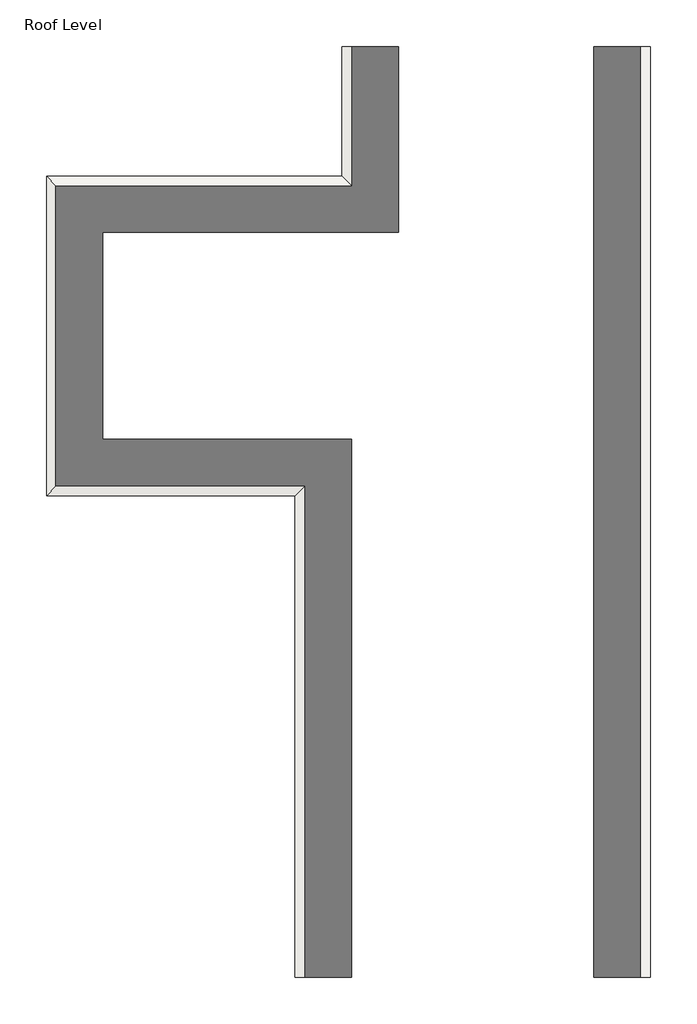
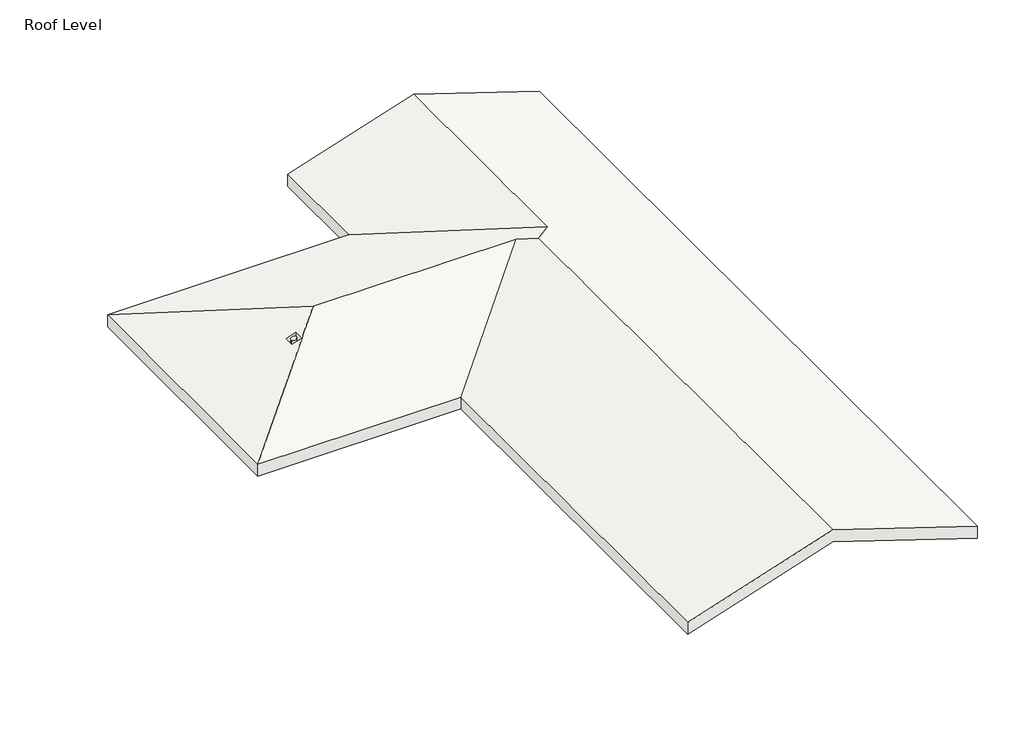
# One storey: 1 roof.
"""IFC4 building model written with IfcOpenShell, lengths in millimetres."""

from ifc_helpers import new_model, si_unit, frame, origin, place, context, project, spatial, ellipse_curve, faceted_brep, element, save
from ifc_brep_helpers import plane_surface, cylinder_surface, advanced_brep

model = new_model("IFC4")

# Units and contexts
model_context = context("Model", 3, world=origin())
ifc_project = project(units=[si_unit("LENGTHUNIT", "METRE", prefix="MILLI")], contexts=[model_context])

# Site, building, storey
site = spatial("IfcSite", under=ifc_project)
building = spatial("IfcBuilding", under=site)
storey = spatial("IfcBuildingStorey", under=building, Name="Roof Level", Elevation=14750.0)

# Roof
placement = place(None, origin())
element("IfcRoof", 1, ObjectType="Main roof", at=placement, inside=storey, context=model_context, shape_type="SolidModel", body=[
    faceted_brep([(-671.5846805, 11592.3927558, 15495.936781), (3156.9978058, 11592.3927558, 16739.9186395), (3156.9978058, 4543.4350317, 16739.9186395), (-671.5846805, 8372.0175181, 15495.936781), (2571.9978058, 3958.4350317, 16929.9966618), (2125.9044897, 4404.5283479, 16785.052157), (-4054.360747, 4404.5283479, 16785.052157), (-8021.8499172, 8372.0175181, 15495.936781), (-4541.2600407, 3917.6290541, 16626.8489864), (-4557.1962165, 3901.6928783, 16621.671009), (-4643.223579, 3815.6655158, 16593.7190245), (-4755.2326782, 3703.6564166, 16557.325062), (-4841.2600407, 3617.6290541, 16529.3730775), (-8021.8499172, 437.0391776, 15495.936781), (-4857.1962165, 3917.6290541, 16524.1951001), (-5157.1962165, 3917.6290541, 16426.7191913), (-5157.1962165, 3617.6290541, 16426.7191913), (-4857.1962165, 3617.6290541, 16524.1951001), (-1841.5846805, 437.0391776, 15495.936781), (2571.9978058, -11532.3709459, 16929.9966618), (-1841.5846805, -11532.3709459, 15495.936781), (6985.5802922, 11592.3927558, 15495.936781), (6985.5802922, -11532.3709459, 15495.936781), (-671.5846805, 11592.3927558, 15874.4631818), (-671.5846805, 8372.0175181, 15874.4631818), (3156.9978058, 4543.4350317, 17118.4450402), (3156.9978058, 11592.3927558, 17118.4450402), (-8021.8499172, 8372.0175181, 15874.4631818), (-4054.360747, 4404.5283479, 17163.5785578), (2125.9044897, 4404.5283479, 17163.5785578), (2571.9978058, 3958.4350317, 17308.5230625), (-8021.8499172, 437.0391776, 15874.4631818), (-4841.2600407, 3617.6290541, 16907.8994783), (-4755.2326782, 3703.6564166, 16935.8514628), (-4643.223579, 3815.6655158, 16972.2454252), (-4557.1962165, 3901.6928783, 17000.1974097), (-4541.2600407, 3917.6290541, 17005.3753871), (-5157.1962165, 3917.6290541, 16805.245592), (-4857.1962165, 3917.6290541, 16902.7215009), (-4857.1962165, 3617.6290541, 16902.7215009), (-5157.1962165, 3617.6290541, 16805.245592), (-1841.5846805, 437.0391776, 15874.4631818), (-1841.5846805, -11532.3709459, 15874.4631818), (2571.9978058, -11532.3709459, 17308.5230625), (6985.5802922, -11532.3709459, 15874.4631818), (6985.5802922, 11592.3927558, 15874.4631818)], [[[0, 1, 2, 3]], [[3, 2, 4, 5, 6, 7]], [[7, 6, 8, 9, 10, 11, 12, 13], [14, 15, 16, 17]], [[13, 12, 11, 10, 9, 8, 6, 5, 18]], [[18, 5, 4, 19, 20]], [[1, 21, 22, 19, 4, 2]], [[23, 24, 25, 26]], [[24, 27, 28, 29, 30, 25]], [[27, 31, 32, 33, 34, 35, 36, 28], [37, 38, 39, 40]], [[31, 41, 29, 28, 36, 35, 34, 33, 32]], [[41, 42, 43, 30, 29]], [[44, 45, 26, 25, 30, 43]], [[24, 23, 0, 3]], [[27, 24, 3, 7]], [[31, 27, 7, 13]], [[41, 31, 13, 18]], [[42, 41, 18, 20]], [[45, 44, 22, 21]], [[21, 1, 0, 23, 26, 45]], [[20, 19, 22, 44, 43, 42]], [[14, 38, 37, 15]], [[15, 37, 40, 16]], [[16, 40, 39, 17]], [[38, 14, 17, 39]]]),
    advanced_brep(
    [(-5087.1962165, 3767.6290541, 16449.46357), (-4927.1962165, 3767.6290541, 16501.4507214), (-4927.1962165, 3767.6290541, 16879.9771221), (-5087.1962165, 3767.6290541, 16827.9899707)],
    [
        (0, 1, ellipse_curve(frame((-5007.1962165, 3767.6290541, 16475.4571457), z_axis=(0.30901699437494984, 0.0, -0.9510565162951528), x_axis=(-0.9510565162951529, 0.0, -0.30901699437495)), 84.1169779, 80.0)),
        (1, 0, ellipse_curve(frame((-5007.1962165, 3767.6290541, 16475.4571457), z_axis=(0.30901699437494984, 0.0, -0.9510565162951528), x_axis=(-0.9510565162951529, 0.0, -0.30901699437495)), 84.1169779, 80.0)),
        (2, 3, ellipse_curve(frame((-5007.1962165, 3767.6290541, 16853.9835464), z_axis=(-0.30901699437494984, 0.0, 0.9510565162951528), x_axis=(-0.9510565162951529, 0.0, -0.30901699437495)), 84.1169779, 80.0)),
        (3, 2, ellipse_curve(frame((-5007.1962165, 3767.6290541, 16853.9835464), z_axis=(-0.30901699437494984, 0.0, 0.9510565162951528), x_axis=(-0.9510565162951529, 0.0, -0.30901699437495)), 84.1169779, 80.0)),
        (0, 3),
        (2, 1),
    ],
    [
        plane_surface(frame((-8021.8499172, 8372.0175181, 15495.936781), z_axis=(0.30901699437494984, 0.0, -0.9510565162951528), x_axis=(0.0, -1.0, 0.0))),
        plane_surface(frame((-8021.8499172, 8372.0175181, 15874.4631818), z_axis=(-0.30901699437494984, 0.0, 0.9510565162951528), x_axis=(0.0, -1.0, 0.0))),
        cylinder_surface(frame((-5007.1962165, 3767.6290541, 0.0), z_axis=(0.0, 0.0, -1.0), x_axis=(1.0, 0.0, 0.0)), 80.0),
    ],
    [
        (0, [[1, 2]]),
        (1, [[3, 4]]),
        (2, [[5, -3, 6, -1]]),
        (2, [[-5, -2, -6, -4]]),
    ],
),
])

save(model, "model.ifc")
